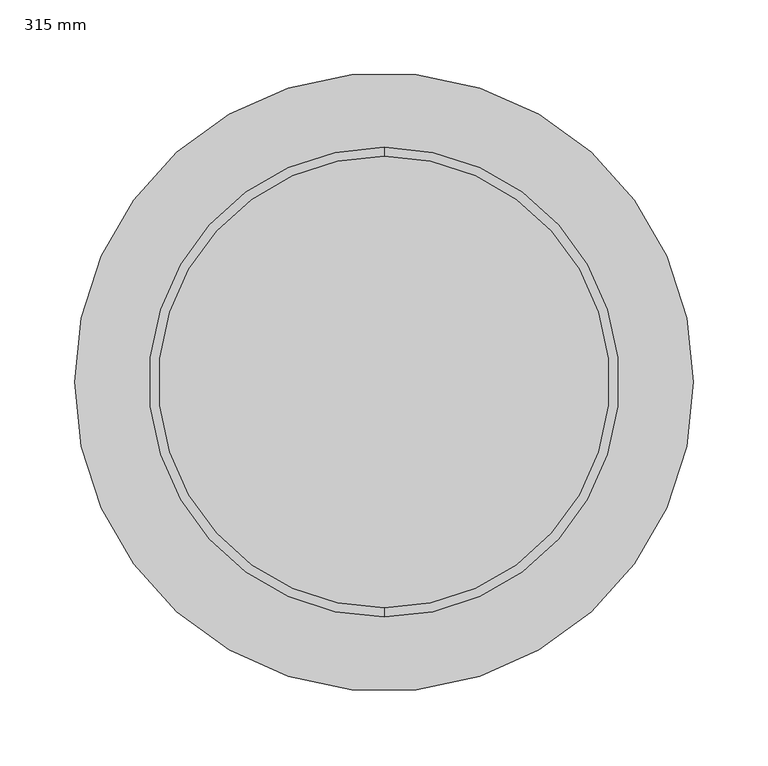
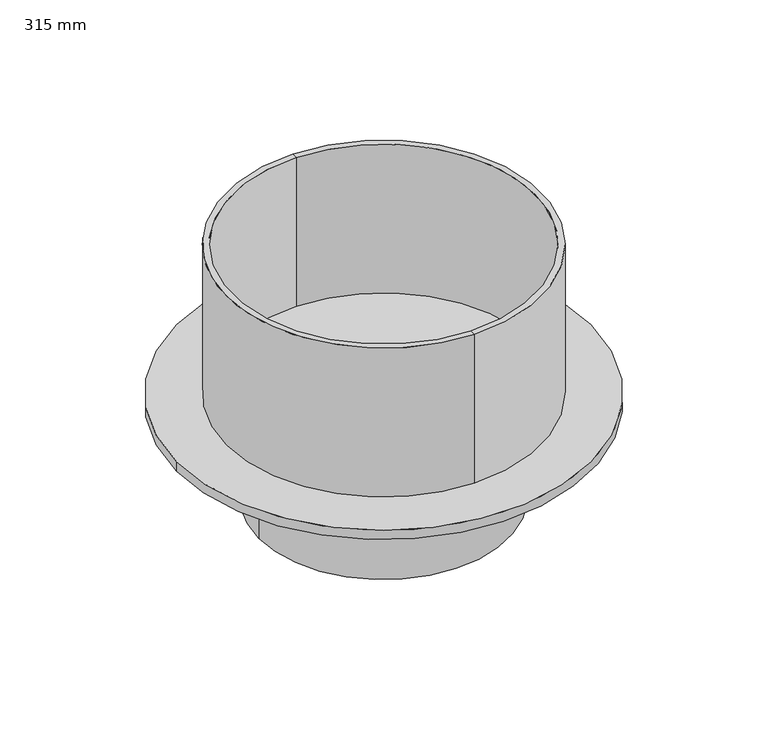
"""IFC4 building model written with IfcOpenShell, lengths in millimetres: unitary equipment geometry, Z_ME_UN_Aquacell_NG_Kit_Shaft_Connector_Wavin_(nested) : 315 mm."""

from ifc_helpers import new_model, si_unit, point, frame, origin, origin_with_axes, origin_2d, place, context, project, spatial, polyline, circle_curve, trimmed, segment, composite_curve, outline, extrude, source, transform, mapped, element, save
from ifc_brep_helpers import plane_surface, cylinder_surface, revolved_surface, advanced_brep


def unitary_equipment_315_mm_28b5e6e1(model_context):
    return source(origin(), model_context, "Body", "SolidModel", [
        extrude(outline(composite_curve([segment(trimmed(circle_curve(origin_2d(), 207.5), [point((-207.5, 0.0))], [point((207.5, 0.0))], False, "CARTESIAN"), True, "CONTINUOUS"), segment(trimmed(circle_curve(origin_2d(), 207.5), [point((207.5, 0.0))], [point((-207.5, 0.0))], False, "CARTESIAN"), True, "CONTINUOUS")], self_intersect=False)), origin_with_axes(), (0.0, 0.0, 1.0), 10.0),
        advanced_brep(
        [(-117.3, 0.0, -100.0), (117.3, 0.0, -100.0), (117.3, 0.0, 0.0), (-117.3, 0.0, 0.0), (-125.0, 0.0, -100.0), (125.0, 0.0, -100.0), (-125.0, 0.0, 0.0), (125.0, 0.0, 0.0)],
        [
            (0, 1, circle_curve(frame((0.0, 0.0, -100.0), z_axis=(0.0, 0.0, -1.0), x_axis=(1.0, 0.0, 0.0)), 117.3)),
            (1, 2),
            (2, 3, circle_curve(origin_with_axes(), 117.3)),
            (3, 0),
            (1, 0, circle_curve(frame((0.0, 0.0, -100.0), z_axis=(0.0, 0.0, -1.0), x_axis=(1.0, 0.0, 0.0)), 117.3)),
            (3, 2, circle_curve(origin_with_axes(), 117.3)),
            (4, 5, circle_curve(frame((0.0, 0.0, -100.0), z_axis=(0.0, 0.0, -1.0), x_axis=(1.0, 0.0, 0.0)), 125.0)),
            (5, 1),
            (0, 4),
            (5, 4, circle_curve(frame((0.0, 0.0, -100.0), z_axis=(0.0, 0.0, -1.0), x_axis=(1.0, 0.0, 0.0)), 125.0)),
            (6, 7, circle_curve(frame((0.0, 0.0, 0.0), z_axis=(0.0, 0.0, -1.0), x_axis=(1.0, 0.0, 0.0)), 125.0)),
            (7, 5),
            (4, 6),
            (7, 6, circle_curve(frame((0.0, 0.0, 0.0), z_axis=(0.0, 0.0, -1.0), x_axis=(1.0, 0.0, 0.0)), 125.0)),
            (2, 7),
            (6, 3),
        ],
        [
            revolved_surface(polyline([(117.3, 0.0, 0.0), (117.3, 0.0, -100.0)]), (0.0, 0.0, -381.0), (0.0, 0.0, 1.0)),
            plane_surface(frame((0.0, 0.0, -100.0), z_axis=(0.0, 0.0, -1.0), x_axis=(1.0, 0.0, 0.0))),
            cylinder_surface(frame((0.0, 0.0, -381.0), z_axis=(0.0, 0.0, 1.0), x_axis=(1.0, 0.0, 0.0)), 125.0),
            plane_surface(origin_with_axes()),
        ],
        [
            (0, [[1, 2, 3, 4]]),
            (0, [[5, -4, 6, -2]]),
            (1, [[7, 8, -1, 9]]),
            (1, [[10, -9, -5, -8]]),
            (2, [[11, 12, -7, 13]]),
            (2, [[14, -13, -10, -12]]),
            (3, [[-3, 15, -11, 16]]),
            (3, [[-6, -16, -14, -15]]),
        ],
    ),
        advanced_brep(
        [(0.0, -151.5, 10.0), (0.0, 151.5, 10.0), (0.0, 151.5, 168.0), (0.0, -151.5, 168.0), (0.0, -157.5, 10.0), (0.0, 157.5, 10.0), (0.0, -157.5, 168.0), (0.0, 157.5, 168.0)],
        [
            (0, 1, circle_curve(frame((0.0, 0.0, 10.0), z_axis=(0.0, 0.0, -1.0), x_axis=(0.0, 1.0, 0.0)), 151.5)),
            (1, 2),
            (2, 3, circle_curve(frame((0.0, 0.0, 168.0), z_axis=(0.0, 0.0, 1.0), x_axis=(0.0, 1.0, 0.0)), 151.5)),
            (3, 0),
            (1, 0, circle_curve(frame((0.0, 0.0, 10.0), z_axis=(0.0, 0.0, -1.0), x_axis=(0.0, 1.0, 0.0)), 151.5)),
            (3, 2, circle_curve(frame((0.0, 0.0, 168.0), z_axis=(0.0, 0.0, 1.0), x_axis=(0.0, 1.0, 0.0)), 151.5)),
            (4, 5, circle_curve(frame((0.0, 0.0, 10.0), z_axis=(0.0, 0.0, -1.0), x_axis=(0.0, 1.0, 0.0)), 157.5)),
            (5, 1),
            (0, 4),
            (5, 4, circle_curve(frame((0.0, 0.0, 10.0), z_axis=(0.0, 0.0, -1.0), x_axis=(0.0, 1.0, 0.0)), 157.5)),
            (6, 7, circle_curve(frame((0.0, 0.0, 168.0), z_axis=(0.0, 0.0, -1.0), x_axis=(0.0, 1.0, 0.0)), 157.5)),
            (7, 5),
            (4, 6),
            (7, 6, circle_curve(frame((0.0, 0.0, 168.0), z_axis=(0.0, 0.0, -1.0), x_axis=(0.0, 1.0, 0.0)), 157.5)),
            (2, 7),
            (6, 3),
        ],
        [
            revolved_surface(polyline([(0.0, 151.5, 168.0), (0.0, 151.5, 10.0)]), (0.0, 0.0, 2741.4742198), (0.0, 0.0, 1.0)),
            plane_surface(frame((0.0, 0.0, 10.0), z_axis=(0.0, 0.0, -1.0), x_axis=(0.0, 1.0, 0.0))),
            cylinder_surface(frame((0.0, 0.0, 2741.4742198), z_axis=(0.0, 0.0, 1.0), x_axis=(0.0, 1.0, 0.0)), 157.5),
            plane_surface(frame((0.0, 0.0, 168.0), z_axis=(0.0, 0.0, 1.0), x_axis=(0.0, 1.0, 0.0))),
        ],
        [
            (0, [[1, 2, 3, 4]]),
            (0, [[5, -4, 6, -2]]),
            (1, [[7, 8, -1, 9]]),
            (1, [[10, -9, -5, -8]]),
            (2, [[11, 12, -7, 13]]),
            (2, [[14, -13, -10, -12]]),
            (3, [[-3, 15, -11, 16]]),
            (3, [[-6, -16, -14, -15]]),
        ],
    ),
    ])


if __name__ == "__main__":
    model = new_model("IFC4")
    model_context = context("Model", 3, world=origin())
    ifc_project = project(units=[si_unit("LENGTHUNIT", "METRE", prefix="MILLI")], contexts=[model_context])
    site = spatial("IfcSite", under=ifc_project)
    building = spatial("IfcBuilding", under=site)
    placement = place(None, origin())
    unitary_equipment_315_mm_shape = unitary_equipment_315_mm_28b5e6e1(model_context)
    element("IfcUnitaryEquipment", 1, ObjectType="Z_ME_UN_Aquacell_NG_Kit_Shaft_Connector_Wavin_(nested) : 315 mm", at=placement, inside=building, context=model_context, shape_type="MappedRepresentation", body=[
        mapped(unitary_equipment_315_mm_shape, transform((0.0, 0.0, 0.0), x_axis=(1.0, 0.0, 0.0), y_axis=(0.0, 1.0, 0.0), z_axis=(0.0, 0.0, 1.0))),
    ])
    save(model, "model.ifc")
